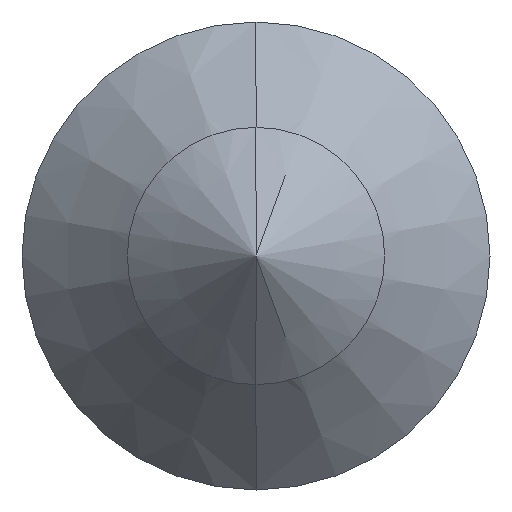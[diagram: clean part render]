
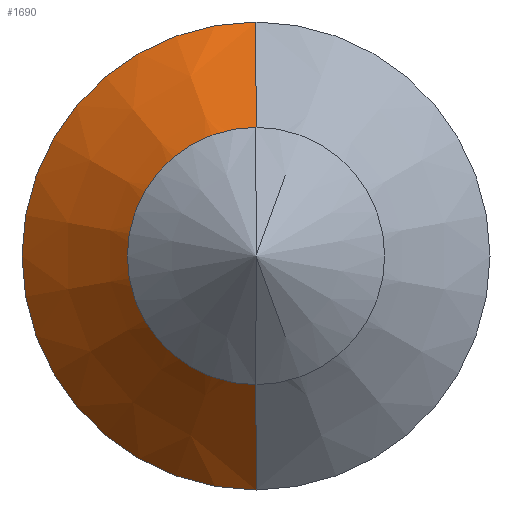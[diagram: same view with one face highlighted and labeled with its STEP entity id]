
A CAD part, left-side view. The second image highlights one B-rep face of the part: STEP entity #1690.
In plain terms, the highlighted conical face has half-angle 45 degrees and reference radius 2 mm.
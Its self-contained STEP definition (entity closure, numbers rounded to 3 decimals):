
#199 = DIRECTION ( 'NONE',  ( 1., 0., 0. ) ) ;
#266 = EDGE_CURVE ( 'NONE', #1794, #1827, #930, .T. ) ;
#320 = CIRCLE ( 'NONE', #2920, 2. ) ;
#375 = EDGE_CURVE ( 'NONE', #1827, #480, #320, .T. ) ;
#406 = VERTEX_POINT ( 'NONE', #2659 ) ;
#464 = EDGE_CURVE ( 'NONE', #1794, #406, #2252, .T. ) ;
#480 = VERTEX_POINT ( 'NONE', #2147 ) ;
#688 = LINE ( 'NONE', #1699, #1011 ) ;
#820 = AXIS2_PLACEMENT_3D ( 'NONE', #1433, #199, #1184 ) ;
#851 = VECTOR ( 'NONE', #1670, 1000. ) ;
#905 = EDGE_LOOP ( 'NONE', ( #1384, #1186, #2708, #1812 ) ) ;
#930 = LINE ( 'NONE', #1607, #851 ) ;
#1011 = VECTOR ( 'NONE', #2127, 1000. ) ;
#1184 = DIRECTION ( 'NONE',  ( 0., 0., -1. ) ) ;
#1186 = ORIENTED_EDGE ( 'NONE', *, *, #266, .T. ) ;
#1384 = ORIENTED_EDGE ( 'NONE', *, *, #464, .F. ) ;
#1433 = CARTESIAN_POINT ( 'NONE',  ( -0.845, 0., 0. ) ) ;
#1435 = CONICAL_SURFACE ( 'NONE', #820, 2., 0.785 ) ;
#1478 = CARTESIAN_POINT ( 'NONE',  ( -0.845, 0., 2. ) ) ;
#1604 = EDGE_CURVE ( 'NONE', #406, #480, #688, .T. ) ;
#1607 = CARTESIAN_POINT ( 'NONE',  ( -0.845, 0., 2. ) ) ;
#1670 = DIRECTION ( 'NONE',  ( 0.707, 0., 0.707 ) ) ;
#1690 = ADVANCED_FACE ( 'NONE', ( #1707 ), #1435, .T. ) ;
#1699 = CARTESIAN_POINT ( 'NONE',  ( -0.845, 0., -2. ) ) ;
#1707 = FACE_OUTER_BOUND ( 'NONE', #905, .T. ) ;
#1782 = AXIS2_PLACEMENT_3D ( 'NONE', #2287, #2275, #2266 ) ;
#1794 = VERTEX_POINT ( 'NONE', #2039 ) ;
#1812 = ORIENTED_EDGE ( 'NONE', *, *, #1604, .F. ) ;
#1827 = VERTEX_POINT ( 'NONE', #1478 ) ;
#2039 = CARTESIAN_POINT ( 'NONE',  ( -1.945, 0., 0.9 ) ) ;
#2127 = DIRECTION ( 'NONE',  ( 0.707, 0., -0.707 ) ) ;
#2147 = CARTESIAN_POINT ( 'NONE',  ( -0.845, 0., -2. ) ) ;
#2252 = CIRCLE ( 'NONE', #1782, 0.9 ) ;
#2266 = DIRECTION ( 'NONE',  ( 0., 0., 1. ) ) ;
#2275 = DIRECTION ( 'NONE',  ( -1., 0., 0. ) ) ;
#2287 = CARTESIAN_POINT ( 'NONE',  ( -1.945, 0., 0. ) ) ;
#2659 = CARTESIAN_POINT ( 'NONE',  ( -1.945, 0., -0.9 ) ) ;
#2708 = ORIENTED_EDGE ( 'NONE', *, *, #375, .T. ) ;
#2920 = AXIS2_PLACEMENT_3D ( 'NONE', #2957, #2941, #2921 ) ;
#2921 = DIRECTION ( 'NONE',  ( 0., 0., 1. ) ) ;
#2941 = DIRECTION ( 'NONE',  ( -1., 0., 0. ) ) ;
#2957 = CARTESIAN_POINT ( 'NONE',  ( -0.845, 0., 0. ) ) ;
